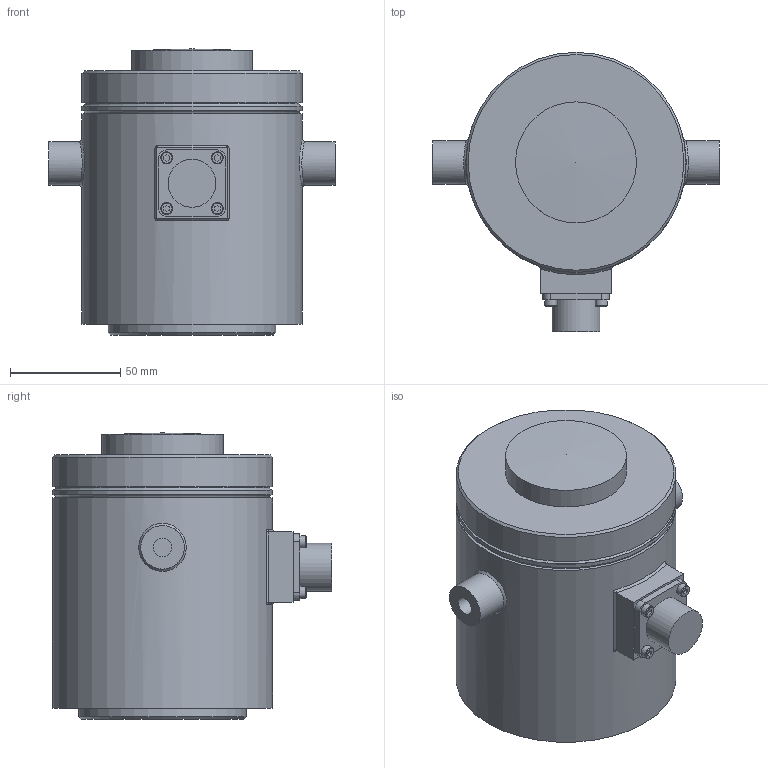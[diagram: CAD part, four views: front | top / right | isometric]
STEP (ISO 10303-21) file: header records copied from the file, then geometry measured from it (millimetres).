
FILE_DESCRIPTION(/* description */ ('Unknown'),/* implementation_level */ '2;1');
FILE_NAME(/* name */ 'C3XK-T020 SPEC',/* time_stamp */ '2021-05-11T15:25:15+09:00',/* author */ ('Unknown'),/* organization */ ('Unknown'),/* preprocessor_version */ 'ST-DEVELOPER v16.7',/* originating_system */ 'DEX',/* authorisation */ $);
FILE_SCHEMA (('AUTOMOTIVE_DESIGN {1 0 10303 214 3 1 1}'));
Length unit declared in the file: millimetre
Products named in the file (1): C3XK-T020 SPEC
Bounding box: 130 x 126.8 x 130 mm (x, y, z)
Volume: 972764.2 mm3; surface area: 61820 mm2
Topology: 1 solids, 1 shells, 96 faces, 224 edges, 145 vertices
Faces by surface type: plane 56, cylinder 21, cone 10, bspline 6, torus 2, sphere 1
Full cylindrical faces by diameter (mm): 5.5 x4, 8.376 x2, 10 x1, 19.8 x2, 21.8 x1, 55 x1, 76 x1, 97 x2, 100 x3
Entity records: 3862 total; most frequent: CARTESIAN_POINT 1198, DIRECTION 388, ORIENTED_EDGE 354, EDGE_CURVE 177, FACE_BOUND 147, EDGE_LOOP 146, AXIS2_PLACEMENT_3D 144, VERTEX_POINT 134
